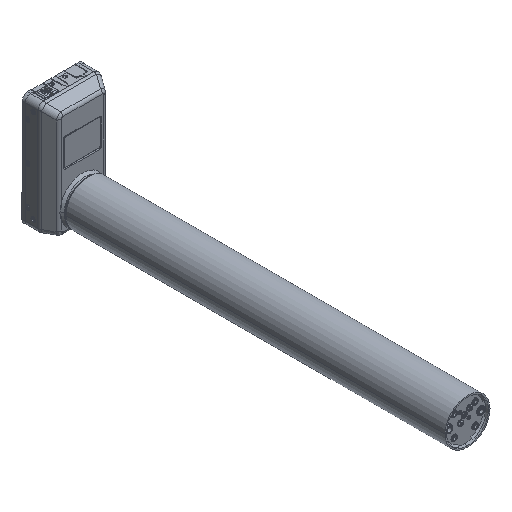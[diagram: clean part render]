
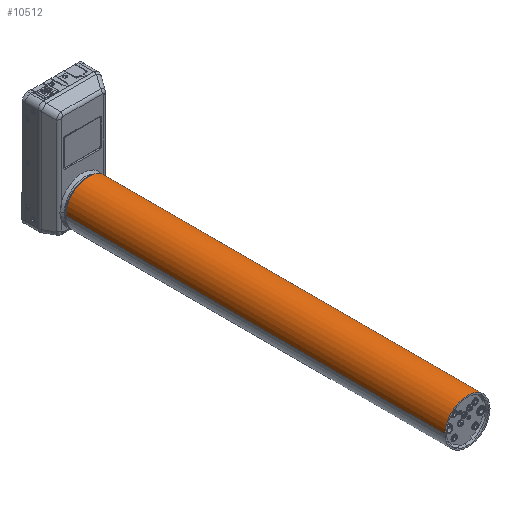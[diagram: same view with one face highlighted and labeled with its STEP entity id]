
A CAD part, isometric view. The second image highlights one B-rep face of the part: STEP entity #10512.
In plain terms, the highlighted cylindrical face has radius 35 mm (diameter 70 mm), a partial arc.
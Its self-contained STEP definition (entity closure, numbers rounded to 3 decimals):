
#3567=CARTESIAN_POINT('',(0.,-498.,0.));
#3568=DIRECTION('',(0.,1.,0.));
#3569=DIRECTION('',(-1.,0.,0.));
#3570=AXIS2_PLACEMENT_3D('',#3567,#3568,#3569);
#3587=DIRECTION('',(0.,1.,0.));
#3588=VECTOR('',#3587,590.);
#3589=CARTESIAN_POINT('',(-35.,-498.,0.));
#3590=LINE('',#3589,#3588);
#3591=CARTESIAN_POINT('',(0.,92.,0.));
#3592=DIRECTION('',(0.,-1.,0.));
#3593=DIRECTION('',(1.,0.,0.));
#3594=AXIS2_PLACEMENT_3D('',#3591,#3592,#3593);
#3655=DIRECTION('',(0.,1.,0.));
#3656=VECTOR('',#3655,590.);
#3657=CARTESIAN_POINT('',(35.,-498.,0.));
#3658=LINE('',#3657,#3656);
#4918=CARTESIAN_POINT('',(35.,92.,0.));
#4919=CARTESIAN_POINT('',(-35.,92.,0.));
#4920=VERTEX_POINT('',#4918);
#4921=VERTEX_POINT('',#4919);
#4922=CARTESIAN_POINT('',(35.,-498.,0.));
#4923=VERTEX_POINT('',#4922);
#4924=CARTESIAN_POINT('',(-35.,-498.,0.));
#4925=VERTEX_POINT('',#4924);
#10498=CARTESIAN_POINT('',(0.,0.,0.));
#10499=DIRECTION('',(0.,-1.,0.));
#10500=DIRECTION('',(1.,0.,0.));
#10501=AXIS2_PLACEMENT_3D('',#10498,#10499,#10500);
#10502=CYLINDRICAL_SURFACE('',#10501,35.);
#10504=ORIENTED_EDGE('',*,*,#10503,.F.);
#10506=ORIENTED_EDGE('',*,*,#10505,.F.);
#10507=ORIENTED_EDGE('',*,*,#10487,.F.);
#10509=ORIENTED_EDGE('',*,*,#10508,.T.);
#10510=EDGE_LOOP('',(#10504,#10506,#10507,#10509));
#10511=FACE_OUTER_BOUND('',#10510,.F.);
#3571=CIRCLE('',#3570,35.);
#3595=CIRCLE('',#3594,35.);
#10487=EDGE_CURVE('',#4925,#4923,#3571,.T.);
#10503=EDGE_CURVE('',#4920,#4921,#3595,.T.);
#10505=EDGE_CURVE('',#4923,#4920,#3658,.T.);
#10508=EDGE_CURVE('',#4925,#4921,#3590,.T.);
#10512=ADVANCED_FACE('',(#10511),#10502,.T.);
